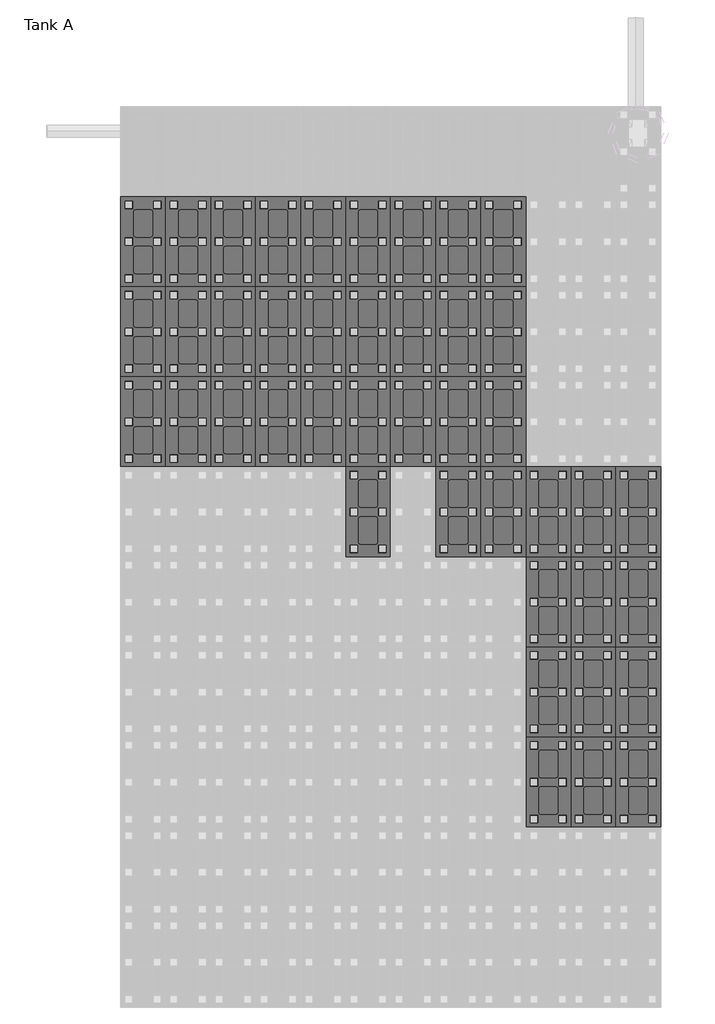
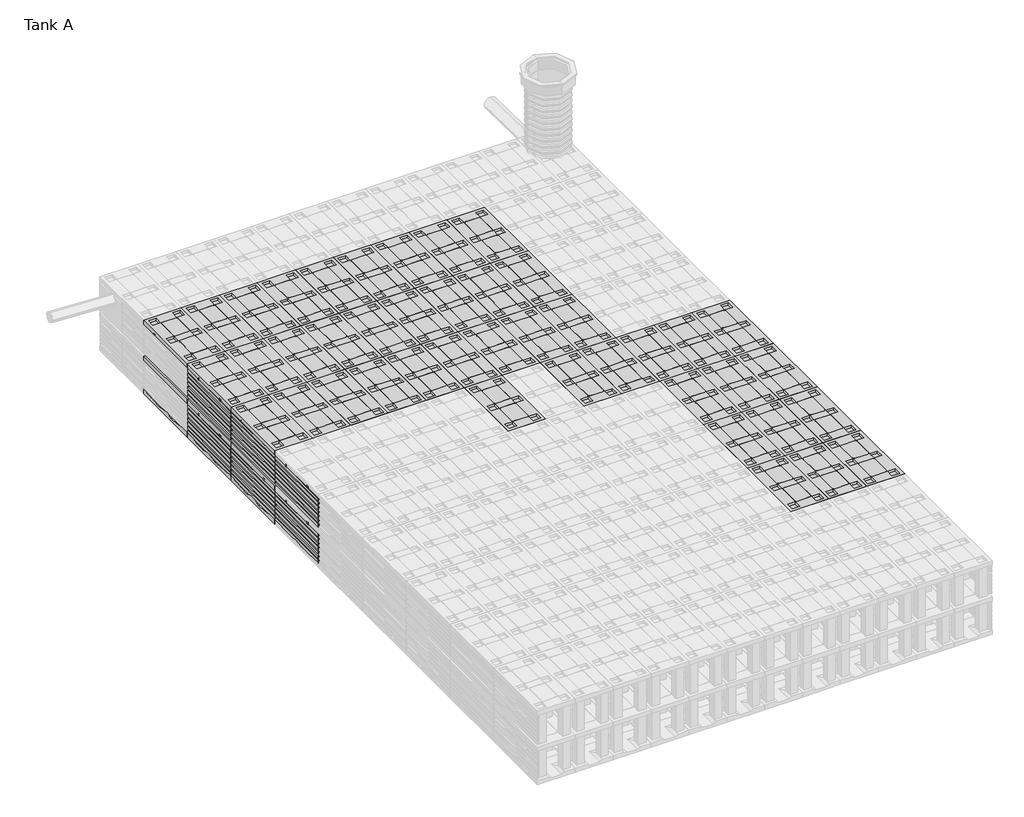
# One storey, part 3 of 6: 142 unitary equipment elements.
"""IFC4 building model written with IfcOpenShell, lengths in millimetres."""

from ifc_helpers import new_model, si_unit, origin, place, context, project, spatial, transform, mapped, element, save
from components import closed_bottom_plate_7d425a97, std_f31acf44, std_d7962c01

model = new_model("IFC4")

# Units and contexts
model_context = context("Model", 3, world=origin())
ifc_project = project(units=[si_unit("LENGTHUNIT", "METRE", prefix="MILLI")], contexts=[model_context])

# Site, building, storey
site = spatial("IfcSite", under=ifc_project)
building = spatial("IfcBuilding", under=site)
storey = spatial("IfcBuildingStorey", under=building, Name="Tank A", Elevation=-2300.0)

# Unitary equipment
placement = place(None, origin())
closed_bottom_plate_shape = closed_bottom_plate_7d425a97(model_context)
element("IfcUnitaryEquipment", 1, ObjectType="Z_ME_UN_Q-Bic_Plus_Bottom_Plate_Wavin_(nested) : Open bottom plate", at=placement, inside=storey, context=model_context, shape_type="MappedRepresentation", body=[
    mapped(closed_bottom_plate_shape, transform((9686.051096, 360.7779398, -2230.0), x_axis=(0.0, 1.0, 0.0), y_axis=(-1.0000000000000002, 0.0, 0.0), z_axis=(0.0, 0.0, 1.0000000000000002))),
])
element("IfcUnitaryEquipment", 2, ObjectType="Z_ME_UN_Q-Bic_Plus_Bottom_Plate_Wavin_(nested) : Open bottom plate", at=placement, inside=storey, context=model_context, shape_type="MappedRepresentation", body=[
    mapped(closed_bottom_plate_shape, transform((9686.051096, 1560.7779398, -2230.0), x_axis=(0.0, 1.0, 0.0), y_axis=(-1.0000000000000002, 0.0, 0.0), z_axis=(0.0, 0.0, 1.0000000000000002))),
])
element("IfcUnitaryEquipment", 3, ObjectType="Z_ME_UN_Q-Bic_Plus_Bottom_Plate_Wavin_(nested) : Open bottom plate", at=placement, inside=storey, context=model_context, shape_type="MappedRepresentation", body=[
    mapped(closed_bottom_plate_shape, transform((9686.051096, 2760.7779398, -2230.0), x_axis=(0.0, 1.0, 0.0), y_axis=(-1.0000000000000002, 0.0, 0.0), z_axis=(0.0, 0.0, 1.0000000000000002))),
])
element("IfcUnitaryEquipment", 4, ObjectType="Z_ME_UN_Q-Bic_Plus_Bottom_Plate_Wavin_(nested) : Open bottom plate", at=placement, inside=storey, context=model_context, shape_type="MappedRepresentation", body=[
    mapped(closed_bottom_plate_shape, transform((9686.051096, 3960.7779398, -2230.0), x_axis=(0.0, 1.0, 0.0), y_axis=(-1.0000000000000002, 0.0, 0.0), z_axis=(0.0, 0.0, 1.0000000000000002))),
])
element("IfcUnitaryEquipment", 5, ObjectType="Z_ME_UN_Q-Bic_Plus_Bottom_Plate_Wavin_(nested) : Open bottom plate", at=placement, inside=storey, context=model_context, shape_type="MappedRepresentation", body=[
    mapped(closed_bottom_plate_shape, transform((9086.051096, 360.7779398, -2230.0), x_axis=(0.0, 1.0, 0.0), y_axis=(-1.0000000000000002, 0.0, 0.0), z_axis=(0.0, 0.0, 1.0000000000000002))),
])
element("IfcUnitaryEquipment", 6, ObjectType="Z_ME_UN_Q-Bic_Plus_Bottom_Plate_Wavin_(nested) : Open bottom plate", at=placement, inside=storey, context=model_context, shape_type="MappedRepresentation", body=[
    mapped(closed_bottom_plate_shape, transform((9086.051096, 1560.7779398, -2230.0), x_axis=(0.0, 1.0, 0.0), y_axis=(-1.0000000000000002, 0.0, 0.0), z_axis=(0.0, 0.0, 1.0000000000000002))),
])
element("IfcUnitaryEquipment", 7, ObjectType="Z_ME_UN_Q-Bic_Plus_Bottom_Plate_Wavin_(nested) : Open bottom plate", at=placement, inside=storey, context=model_context, shape_type="MappedRepresentation", body=[
    mapped(closed_bottom_plate_shape, transform((9086.051096, 2760.7779398, -2230.0), x_axis=(0.0, 1.0, 0.0), y_axis=(-1.0000000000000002, 0.0, 0.0), z_axis=(0.0, 0.0, 1.0000000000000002))),
])
element("IfcUnitaryEquipment", 8, ObjectType="Z_ME_UN_Q-Bic_Plus_Bottom_Plate_Wavin_(nested) : Open bottom plate", at=placement, inside=storey, context=model_context, shape_type="MappedRepresentation", body=[
    mapped(closed_bottom_plate_shape, transform((9086.051096, 3960.7779398, -2230.0), x_axis=(0.0, 1.0, 0.0), y_axis=(-1.0000000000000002, 0.0, 0.0), z_axis=(0.0, 0.0, 1.0000000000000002))),
])
element("IfcUnitaryEquipment", 9, ObjectType="Z_ME_UN_Q-Bic_Plus_Bottom_Plate_Wavin_(nested) : Open bottom plate", at=placement, inside=storey, context=model_context, shape_type="MappedRepresentation", body=[
    mapped(closed_bottom_plate_shape, transform((8486.051096, 360.7779398, -2230.0), x_axis=(0.0, 1.0, 0.0), y_axis=(-1.0000000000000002, 0.0, 0.0), z_axis=(0.0, 0.0, 1.0000000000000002))),
])
element("IfcUnitaryEquipment", 10, ObjectType="Z_ME_UN_Q-Bic_Plus_Bottom_Plate_Wavin_(nested) : Open bottom plate", at=placement, inside=storey, context=model_context, shape_type="MappedRepresentation", body=[
    mapped(closed_bottom_plate_shape, transform((8486.051096, 1560.7779398, -2230.0), x_axis=(0.0, 1.0, 0.0), y_axis=(-1.0000000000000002, 0.0, 0.0), z_axis=(0.0, 0.0, 1.0000000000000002))),
])
element("IfcUnitaryEquipment", 11, ObjectType="Z_ME_UN_Q-Bic_Plus_Bottom_Plate_Wavin_(nested) : Open bottom plate", at=placement, inside=storey, context=model_context, shape_type="MappedRepresentation", body=[
    mapped(closed_bottom_plate_shape, transform((8486.051096, 2760.7779398, -2230.0), x_axis=(0.0, 1.0, 0.0), y_axis=(-1.0000000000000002, 0.0, 0.0), z_axis=(0.0, 0.0, 1.0000000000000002))),
])
element("IfcUnitaryEquipment", 12, ObjectType="Z_ME_UN_Q-Bic_Plus_Bottom_Plate_Wavin_(nested) : Open bottom plate", at=placement, inside=storey, context=model_context, shape_type="MappedRepresentation", body=[
    mapped(closed_bottom_plate_shape, transform((8486.051096, 3960.7779398, -2230.0), x_axis=(0.0, 1.0, 0.0), y_axis=(-1.0000000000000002, 0.0, 0.0), z_axis=(0.0, 0.0, 1.0000000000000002))),
])
element("IfcUnitaryEquipment", 13, ObjectType="Z_ME_UN_Q-Bic_Plus_Bottom_Plate_Wavin_(nested) : Open bottom plate", at=placement, inside=storey, context=model_context, shape_type="MappedRepresentation", body=[
    mapped(closed_bottom_plate_shape, transform((7886.051096, 3960.7779398, -2230.0), x_axis=(0.0, 1.0, 0.0), y_axis=(-1.0000000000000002, 0.0, 0.0), z_axis=(0.0, 0.0, 1.0000000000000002))),
])
element("IfcUnitaryEquipment", 14, ObjectType="Z_ME_UN_Q-Bic_Plus_Bottom_Plate_Wavin_(nested) : Open bottom plate", at=placement, inside=storey, context=model_context, shape_type="MappedRepresentation", body=[
    mapped(closed_bottom_plate_shape, transform((7886.051096, 5160.7779398, -2230.0), x_axis=(0.0, 1.0, 0.0), y_axis=(-1.0000000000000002, 0.0, 0.0), z_axis=(0.0, 0.0, 1.0000000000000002))),
])
element("IfcUnitaryEquipment", 15, ObjectType="Z_ME_UN_Q-Bic_Plus_Bottom_Plate_Wavin_(nested) : Open bottom plate", at=placement, inside=storey, context=model_context, shape_type="MappedRepresentation", body=[
    mapped(closed_bottom_plate_shape, transform((7886.051096, 6360.7779398, -2230.0), x_axis=(0.0, 1.0, 0.0), y_axis=(-1.0000000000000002, 0.0, 0.0), z_axis=(0.0, 0.0, 1.0000000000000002))),
])
element("IfcUnitaryEquipment", 16, ObjectType="Z_ME_UN_Q-Bic_Plus_Bottom_Plate_Wavin_(nested) : Open bottom plate", at=placement, inside=storey, context=model_context, shape_type="MappedRepresentation", body=[
    mapped(closed_bottom_plate_shape, transform((7886.051096, 7560.7779398, -2230.0), x_axis=(0.0, 1.0, 0.0), y_axis=(-1.0000000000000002, 0.0, 0.0), z_axis=(0.0, 0.0, 1.0000000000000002))),
])
element("IfcUnitaryEquipment", 17, ObjectType="Z_ME_UN_Q-Bic_Plus_Bottom_Plate_Wavin_(nested) : Open bottom plate", at=placement, inside=storey, context=model_context, shape_type="MappedRepresentation", body=[
    mapped(closed_bottom_plate_shape, transform((7286.051096, 3960.7779398, -2230.0), x_axis=(0.0, 1.0, 0.0), y_axis=(-1.0000000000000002, 0.0, 0.0), z_axis=(0.0, 0.0, 1.0000000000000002))),
])
element("IfcUnitaryEquipment", 18, ObjectType="Z_ME_UN_Q-Bic_Plus_Bottom_Plate_Wavin_(nested) : Open bottom plate", at=placement, inside=storey, context=model_context, shape_type="MappedRepresentation", body=[
    mapped(closed_bottom_plate_shape, transform((7286.051096, 5160.7779398, -2230.0), x_axis=(0.0, 1.0, 0.0), y_axis=(-1.0000000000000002, 0.0, 0.0), z_axis=(0.0, 0.0, 1.0000000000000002))),
])
element("IfcUnitaryEquipment", 19, ObjectType="Z_ME_UN_Q-Bic_Plus_Bottom_Plate_Wavin_(nested) : Open bottom plate", at=placement, inside=storey, context=model_context, shape_type="MappedRepresentation", body=[
    mapped(closed_bottom_plate_shape, transform((7286.051096, 6360.7779398, -2230.0), x_axis=(0.0, 1.0, 0.0), y_axis=(-1.0000000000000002, 0.0, 0.0), z_axis=(0.0, 0.0, 1.0000000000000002))),
])
element("IfcUnitaryEquipment", 20, ObjectType="Z_ME_UN_Q-Bic_Plus_Bottom_Plate_Wavin_(nested) : Open bottom plate", at=placement, inside=storey, context=model_context, shape_type="MappedRepresentation", body=[
    mapped(closed_bottom_plate_shape, transform((7286.051096, 7560.7779398, -2230.0), x_axis=(0.0, 1.0, 0.0), y_axis=(-1.0000000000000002, 0.0, 0.0), z_axis=(0.0, 0.0, 1.0000000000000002))),
])
element("IfcUnitaryEquipment", 21, ObjectType="Z_ME_UN_Q-Bic_Plus_Bottom_Plate_Wavin_(nested) : Open bottom plate", at=placement, inside=storey, context=model_context, shape_type="MappedRepresentation", body=[
    mapped(closed_bottom_plate_shape, transform((6686.051096, 3960.7779398, -2230.0), x_axis=(0.0, 1.0, 0.0), y_axis=(-1.0000000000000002, 0.0, 0.0), z_axis=(0.0, 0.0, 1.0000000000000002))),
])
element("IfcUnitaryEquipment", 22, ObjectType="Z_ME_UN_Q-Bic_Plus_Bottom_Plate_Wavin_(nested) : Open bottom plate", at=placement, inside=storey, context=model_context, shape_type="MappedRepresentation", body=[
    mapped(closed_bottom_plate_shape, transform((6686.051096, 5160.7779398, -2230.0), x_axis=(0.0, 1.0, 0.0), y_axis=(-1.0000000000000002, 0.0, 0.0), z_axis=(0.0, 0.0, 1.0000000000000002))),
])
element("IfcUnitaryEquipment", 23, ObjectType="Z_ME_UN_Q-Bic_Plus_Bottom_Plate_Wavin_(nested) : Open bottom plate", at=placement, inside=storey, context=model_context, shape_type="MappedRepresentation", body=[
    mapped(closed_bottom_plate_shape, transform((6686.051096, 6360.7779398, -2230.0), x_axis=(0.0, 1.0, 0.0), y_axis=(-1.0000000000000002, 0.0, 0.0), z_axis=(0.0, 0.0, 1.0000000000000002))),
])
element("IfcUnitaryEquipment", 24, ObjectType="Z_ME_UN_Q-Bic_Plus_Bottom_Plate_Wavin_(nested) : Open bottom plate", at=placement, inside=storey, context=model_context, shape_type="MappedRepresentation", body=[
    mapped(closed_bottom_plate_shape, transform((6686.051096, 7560.7779398, -2230.0), x_axis=(0.0, 1.0, 0.0), y_axis=(-1.0000000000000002, 0.0, 0.0), z_axis=(0.0, 0.0, 1.0000000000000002))),
])
element("IfcUnitaryEquipment", 25, ObjectType="Z_ME_UN_Q-Bic_Plus_Bottom_Plate_Wavin_(nested) : Open bottom plate", at=placement, inside=storey, context=model_context, shape_type="MappedRepresentation", body=[
    mapped(closed_bottom_plate_shape, transform((6086.051096, 3960.7779398, -2230.0), x_axis=(0.0, 1.0, 0.0), y_axis=(-1.0000000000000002, 0.0, 0.0), z_axis=(0.0, 0.0, 1.0000000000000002))),
])
element("IfcUnitaryEquipment", 26, ObjectType="Z_ME_UN_Q-Bic_Plus_Bottom_Plate_Wavin_(nested) : Open bottom plate", at=placement, inside=storey, context=model_context, shape_type="MappedRepresentation", body=[
    mapped(closed_bottom_plate_shape, transform((6086.051096, 5160.7779398, -2230.0), x_axis=(0.0, 1.0, 0.0), y_axis=(-1.0000000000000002, 0.0, 0.0), z_axis=(0.0, 0.0, 1.0000000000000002))),
])
element("IfcUnitaryEquipment", 27, ObjectType="Z_ME_UN_Q-Bic_Plus_Bottom_Plate_Wavin_(nested) : Open bottom plate", at=placement, inside=storey, context=model_context, shape_type="MappedRepresentation", body=[
    mapped(closed_bottom_plate_shape, transform((6086.051096, 6360.7779398, -2230.0), x_axis=(0.0, 1.0, 0.0), y_axis=(-1.0000000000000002, 0.0, 0.0), z_axis=(0.0, 0.0, 1.0000000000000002))),
])
element("IfcUnitaryEquipment", 28, ObjectType="Z_ME_UN_Q-Bic_Plus_Bottom_Plate_Wavin_(nested) : Open bottom plate", at=placement, inside=storey, context=model_context, shape_type="MappedRepresentation", body=[
    mapped(closed_bottom_plate_shape, transform((6086.051096, 7560.7779398, -2230.0), x_axis=(0.0, 1.0, 0.0), y_axis=(-1.0000000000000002, 0.0, 0.0), z_axis=(0.0, 0.0, 1.0000000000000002))),
])
element("IfcUnitaryEquipment", 29, ObjectType="Z_ME_UN_Q-Bic_Plus_Bottom_Plate_Wavin_(nested) : Open bottom plate", at=placement, inside=storey, context=model_context, shape_type="MappedRepresentation", body=[
    mapped(closed_bottom_plate_shape, transform((5486.051096, 5160.7779398, -2230.0), x_axis=(0.0, 1.0, 0.0), y_axis=(-1.0000000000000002, 0.0, 0.0), z_axis=(0.0, 0.0, 1.0000000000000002))),
])
element("IfcUnitaryEquipment", 30, ObjectType="Z_ME_UN_Q-Bic_Plus_Bottom_Plate_Wavin_(nested) : Open bottom plate", at=placement, inside=storey, context=model_context, shape_type="MappedRepresentation", body=[
    mapped(closed_bottom_plate_shape, transform((5486.051096, 6360.7779398, -2230.0), x_axis=(0.0, 1.0, 0.0), y_axis=(-1.0000000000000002, 0.0, 0.0), z_axis=(0.0, 0.0, 1.0000000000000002))),
])
element("IfcUnitaryEquipment", 31, ObjectType="Z_ME_UN_Q-Bic_Plus_Bottom_Plate_Wavin_(nested) : Open bottom plate", at=placement, inside=storey, context=model_context, shape_type="MappedRepresentation", body=[
    mapped(closed_bottom_plate_shape, transform((5486.051096, 7560.7779398, -2230.0), x_axis=(0.0, 1.0, 0.0), y_axis=(-1.0000000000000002, 0.0, 0.0), z_axis=(0.0, 0.0, 1.0000000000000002))),
])
element("IfcUnitaryEquipment", 32, ObjectType="Z_ME_UN_Q-Bic_Plus_Bottom_Plate_Wavin_(nested) : Open bottom plate", at=placement, inside=storey, context=model_context, shape_type="MappedRepresentation", body=[
    mapped(closed_bottom_plate_shape, transform((4886.051096, 5160.7779398, -2230.0), x_axis=(0.0, 1.0, 0.0), y_axis=(-1.0000000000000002, 0.0, 0.0), z_axis=(0.0, 0.0, 1.0000000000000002))),
])
element("IfcUnitaryEquipment", 33, ObjectType="Z_ME_UN_Q-Bic_Plus_Bottom_Plate_Wavin_(nested) : Open bottom plate", at=placement, inside=storey, context=model_context, shape_type="MappedRepresentation", body=[
    mapped(closed_bottom_plate_shape, transform((4886.051096, 6360.7779398, -2230.0), x_axis=(0.0, 1.0, 0.0), y_axis=(-1.0000000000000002, 0.0, 0.0), z_axis=(0.0, 0.0, 1.0000000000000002))),
])
element("IfcUnitaryEquipment", 34, ObjectType="Z_ME_UN_Q-Bic_Plus_Bottom_Plate_Wavin_(nested) : Open bottom plate", at=placement, inside=storey, context=model_context, shape_type="MappedRepresentation", body=[
    mapped(closed_bottom_plate_shape, transform((4886.051096, 7560.7779398, -2230.0), x_axis=(0.0, 1.0, 0.0), y_axis=(-1.0000000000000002, 0.0, 0.0), z_axis=(0.0, 0.0, 1.0000000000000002))),
])
element("IfcUnitaryEquipment", 35, ObjectType="Z_ME_UN_Q-Bic_Plus_Bottom_Plate_Wavin_(nested) : Open bottom plate", at=placement, inside=storey, context=model_context, shape_type="MappedRepresentation", body=[
    mapped(closed_bottom_plate_shape, transform((4286.051096, 5160.7779398, -2230.0), x_axis=(0.0, 1.0, 0.0), y_axis=(-1.0000000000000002, 0.0, 0.0), z_axis=(0.0, 0.0, 1.0000000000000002))),
])
element("IfcUnitaryEquipment", 36, ObjectType="Z_ME_UN_Q-Bic_Plus_Bottom_Plate_Wavin_(nested) : Open bottom plate", at=placement, inside=storey, context=model_context, shape_type="MappedRepresentation", body=[
    mapped(closed_bottom_plate_shape, transform((4286.051096, 6360.7779398, -2230.0), x_axis=(0.0, 1.0, 0.0), y_axis=(-1.0000000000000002, 0.0, 0.0), z_axis=(0.0, 0.0, 1.0000000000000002))),
])
element("IfcUnitaryEquipment", 37, ObjectType="Z_ME_UN_Q-Bic_Plus_Bottom_Plate_Wavin_(nested) : Open bottom plate", at=placement, inside=storey, context=model_context, shape_type="MappedRepresentation", body=[
    mapped(closed_bottom_plate_shape, transform((4286.051096, 7560.7779398, -2230.0), x_axis=(0.0, 1.0, 0.0), y_axis=(-1.0000000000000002, 0.0, 0.0), z_axis=(0.0, 0.0, 1.0000000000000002))),
])
element("IfcUnitaryEquipment", 38, ObjectType="Z_ME_UN_Q-Bic_Plus_Bottom_Plate_Wavin_(nested) : Open bottom plate", at=placement, inside=storey, context=model_context, shape_type="MappedRepresentation", body=[
    mapped(closed_bottom_plate_shape, transform((3686.051096, 5160.7779398, -2230.0), x_axis=(0.0, 1.0, 0.0), y_axis=(-1.0000000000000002, 0.0, 0.0), z_axis=(0.0, 0.0, 1.0000000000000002))),
])
element("IfcUnitaryEquipment", 39, ObjectType="Z_ME_UN_Q-Bic_Plus_Bottom_Plate_Wavin_(nested) : Open bottom plate", at=placement, inside=storey, context=model_context, shape_type="MappedRepresentation", body=[
    mapped(closed_bottom_plate_shape, transform((3686.051096, 6360.7779398, -2230.0), x_axis=(0.0, 1.0, 0.0), y_axis=(-1.0000000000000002, 0.0, 0.0), z_axis=(0.0, 0.0, 1.0000000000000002))),
])
element("IfcUnitaryEquipment", 40, ObjectType="Z_ME_UN_Q-Bic_Plus_Bottom_Plate_Wavin_(nested) : Open bottom plate", at=placement, inside=storey, context=model_context, shape_type="MappedRepresentation", body=[
    mapped(closed_bottom_plate_shape, transform((3686.051096, 7560.7779398, -2230.0), x_axis=(0.0, 1.0, 0.0), y_axis=(-1.0000000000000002, 0.0, 0.0), z_axis=(0.0, 0.0, 1.0000000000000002))),
])
element("IfcUnitaryEquipment", 41, ObjectType="Z_ME_UN_Q-Bic_Plus_Bottom_Plate_Wavin_(nested) : Open bottom plate", at=placement, inside=storey, context=model_context, shape_type="MappedRepresentation", body=[
    mapped(closed_bottom_plate_shape, transform((3086.051096, 5160.7779398, -2230.0), x_axis=(0.0, 1.0, 0.0), y_axis=(-1.0000000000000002, 0.0, 0.0), z_axis=(0.0, 0.0, 1.0000000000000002))),
])
element("IfcUnitaryEquipment", 42, ObjectType="Z_ME_UN_Q-Bic_Plus_Bottom_Plate_Wavin_(nested) : Open bottom plate", at=placement, inside=storey, context=model_context, shape_type="MappedRepresentation", body=[
    mapped(closed_bottom_plate_shape, transform((3086.051096, 6360.7779398, -2230.0), x_axis=(0.0, 1.0, 0.0), y_axis=(-1.0000000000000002, 0.0, 0.0), z_axis=(0.0, 0.0, 1.0000000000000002))),
])
element("IfcUnitaryEquipment", 43, ObjectType="Z_ME_UN_Q-Bic_Plus_Bottom_Plate_Wavin_(nested) : Open bottom plate", at=placement, inside=storey, context=model_context, shape_type="MappedRepresentation", body=[
    mapped(closed_bottom_plate_shape, transform((3086.051096, 7560.7779398, -2230.0), x_axis=(0.0, 1.0, 0.0), y_axis=(-1.0000000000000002, 0.0, 0.0), z_axis=(0.0, 0.0, 1.0000000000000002))),
])
std_shape = std_f31acf44(model_context)
element("IfcUnitaryEquipment", 44, ObjectType="Z_ME_UN_Q-Bic_Plus_Lateral_Side_Plate_Wavin_(nested) : std", at=placement, inside=storey, context=model_context, shape_type="MappedRepresentation", body=[
    mapped(std_shape, transform((9686.051096, 3960.7779398, -2330.0), x_axis=(0.0, 1.0000000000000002, 0.0), y_axis=(-1.0000000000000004, 0.0, 0.0), z_axis=(0.0, 0.0, 1.0000000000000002))),
])
element("IfcUnitaryEquipment", 45, ObjectType="Z_ME_UN_Q-Bic_Plus_Lateral_Side_Plate_Wavin_(nested) : std", at=placement, inside=storey, context=model_context, shape_type="MappedRepresentation", body=[
    mapped(std_shape, transform((9686.051096, 3960.7779398, -1730.0), x_axis=(0.0, 1.0000000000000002, 0.0), y_axis=(-1.0000000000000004, 0.0, 0.0), z_axis=(0.0, 0.0, 1.0000000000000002))),
])
element("IfcUnitaryEquipment", 46, ObjectType="Z_ME_UN_Q-Bic_Plus_Lateral_Side_Plate_Wavin_(nested) : std", at=placement, inside=storey, context=model_context, shape_type="MappedRepresentation", body=[
    mapped(std_shape, transform((9686.051096, 2760.7779398, -2330.0), x_axis=(0.0, 1.0000000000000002, 0.0), y_axis=(-1.0000000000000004, 0.0, 0.0), z_axis=(0.0, 0.0, 1.0000000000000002))),
])
element("IfcUnitaryEquipment", 47, ObjectType="Z_ME_UN_Q-Bic_Plus_Lateral_Side_Plate_Wavin_(nested) : std", at=placement, inside=storey, context=model_context, shape_type="MappedRepresentation", body=[
    mapped(std_shape, transform((9686.051096, 2760.7779398, -1730.0), x_axis=(0.0, 1.0000000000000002, 0.0), y_axis=(-1.0000000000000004, 0.0, 0.0), z_axis=(0.0, 0.0, 1.0000000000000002))),
])
element("IfcUnitaryEquipment", 48, ObjectType="Z_ME_UN_Q-Bic_Plus_Lateral_Side_Plate_Wavin_(nested) : std", at=placement, inside=storey, context=model_context, shape_type="MappedRepresentation", body=[
    mapped(std_shape, transform((9686.051096, 1560.7779398, -2330.0), x_axis=(0.0, 1.0000000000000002, 0.0), y_axis=(-1.0000000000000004, 0.0, 0.0), z_axis=(0.0, 0.0, 1.0000000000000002))),
])
element("IfcUnitaryEquipment", 49, ObjectType="Z_ME_UN_Q-Bic_Plus_Lateral_Side_Plate_Wavin_(nested) : std", at=placement, inside=storey, context=model_context, shape_type="MappedRepresentation", body=[
    mapped(std_shape, transform((9686.051096, 1560.7779398, -1730.0), x_axis=(0.0, 1.0000000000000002, 0.0), y_axis=(-1.0000000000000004, 0.0, 0.0), z_axis=(0.0, 0.0, 1.0000000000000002))),
])
element("IfcUnitaryEquipment", 50, ObjectType="Z_ME_UN_Q-Bic_Plus_Lateral_Side_Plate_Wavin_(nested) : std", at=placement, inside=storey, context=model_context, shape_type="MappedRepresentation", body=[
    mapped(std_shape, transform((9686.051096, 360.7779398, -2330.0), x_axis=(0.0, 1.0000000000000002, 0.0), y_axis=(-1.0000000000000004, 0.0, 0.0), z_axis=(0.0, 0.0, 1.0000000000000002))),
])
element("IfcUnitaryEquipment", 51, ObjectType="Z_ME_UN_Q-Bic_Plus_Lateral_Side_Plate_Wavin_(nested) : std", at=placement, inside=storey, context=model_context, shape_type="MappedRepresentation", body=[
    mapped(std_shape, transform((9686.051096, 360.7779398, -1730.0), x_axis=(0.0, 1.0000000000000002, 0.0), y_axis=(-1.0000000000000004, 0.0, 0.0), z_axis=(0.0, 0.0, 1.0000000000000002))),
])
element("IfcUnitaryEquipment", 52, ObjectType="Z_ME_UN_Q-Bic_Plus_Lateral_Side_Plate_Wavin_(nested) : std", at=placement, inside=storey, context=model_context, shape_type="MappedRepresentation", body=[
    mapped(std_shape, transform((2486.051096, 5160.7779398, -2330.0), x_axis=(0.0, -1.0000000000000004, 0.0), y_axis=(1.0000000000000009, 0.0, 0.0), z_axis=(0.0, 0.0, 1.0000000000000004))),
])
element("IfcUnitaryEquipment", 53, ObjectType="Z_ME_UN_Q-Bic_Plus_Lateral_Side_Plate_Wavin_(nested) : std", at=placement, inside=storey, context=model_context, shape_type="MappedRepresentation", body=[
    mapped(std_shape, transform((2486.051096, 5160.7779398, -1730.0), x_axis=(0.0, -1.0000000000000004, 0.0), y_axis=(1.0000000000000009, 0.0, 0.0), z_axis=(0.0, 0.0, 1.0000000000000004))),
])
element("IfcUnitaryEquipment", 54, ObjectType="Z_ME_UN_Q-Bic_Plus_Lateral_Side_Plate_Wavin_(nested) : std", at=placement, inside=storey, context=model_context, shape_type="MappedRepresentation", body=[
    mapped(std_shape, transform((2486.051096, 6360.7779398, -2330.0), x_axis=(0.0, -1.0000000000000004, 0.0), y_axis=(1.0000000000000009, 0.0, 0.0), z_axis=(0.0, 0.0, 1.0000000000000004))),
])
element("IfcUnitaryEquipment", 55, ObjectType="Z_ME_UN_Q-Bic_Plus_Lateral_Side_Plate_Wavin_(nested) : std", at=placement, inside=storey, context=model_context, shape_type="MappedRepresentation", body=[
    mapped(std_shape, transform((2486.051096, 6360.7779398, -1730.0), x_axis=(0.0, -1.0000000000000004, 0.0), y_axis=(1.0000000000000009, 0.0, 0.0), z_axis=(0.0, 0.0, 1.0000000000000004))),
])
element("IfcUnitaryEquipment", 56, ObjectType="Z_ME_UN_Q-Bic_Plus_Lateral_Side_Plate_Wavin_(nested) : std", at=placement, inside=storey, context=model_context, shape_type="MappedRepresentation", body=[
    mapped(std_shape, transform((2486.051096, 7560.7779398, -2330.0), x_axis=(0.0, -1.0000000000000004, 0.0), y_axis=(1.0000000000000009, 0.0, 0.0), z_axis=(0.0, 0.0, 1.0000000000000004))),
])
element("IfcUnitaryEquipment", 57, ObjectType="Z_ME_UN_Q-Bic_Plus_Lateral_Side_Plate_Wavin_(nested) : std", at=placement, inside=storey, context=model_context, shape_type="MappedRepresentation", body=[
    mapped(std_shape, transform((2486.051096, 7560.7779398, -1730.0), x_axis=(0.0, -1.0000000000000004, 0.0), y_axis=(1.0000000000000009, 0.0, 0.0), z_axis=(0.0, 0.0, 1.0000000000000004))),
])
std_2_shape = std_d7962c01(model_context)
element("IfcUnitaryEquipment", 58, ObjectType="Z_ME_UN_Q-Bic_Plus_Infiltration_Unit_Wavin_(nested) : std", at=placement, inside=storey, context=model_context, shape_type="MappedRepresentation", body=[
    mapped(std_2_shape, transform((9686.051096, 360.7779398, -1670.0), x_axis=(0.0, 1.0, 0.0), y_axis=(-1.0000000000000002, 0.0, 0.0), z_axis=(0.0, 0.0, 1.0000000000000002))),
])
element("IfcUnitaryEquipment", 59, ObjectType="Z_ME_UN_Q-Bic_Plus_Infiltration_Unit_Wavin_(nested) : std", at=placement, inside=storey, context=model_context, shape_type="MappedRepresentation", body=[
    mapped(std_2_shape, transform((9686.051096, 360.7779398, -2270.0), x_axis=(0.0, 1.0, 0.0), y_axis=(-1.0000000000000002, 0.0, 0.0), z_axis=(0.0, 0.0, 1.0000000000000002))),
])
element("IfcUnitaryEquipment", 60, ObjectType="Z_ME_UN_Q-Bic_Plus_Infiltration_Unit_Wavin_(nested) : std", at=placement, inside=storey, context=model_context, shape_type="MappedRepresentation", body=[
    mapped(std_2_shape, transform((9686.051096, 1560.7779398, -1670.0), x_axis=(0.0, 1.0, 0.0), y_axis=(-1.0000000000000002, 0.0, 0.0), z_axis=(0.0, 0.0, 1.0000000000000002))),
])
element("IfcUnitaryEquipment", 61, ObjectType="Z_ME_UN_Q-Bic_Plus_Infiltration_Unit_Wavin_(nested) : std", at=placement, inside=storey, context=model_context, shape_type="MappedRepresentation", body=[
    mapped(std_2_shape, transform((9686.051096, 1560.7779398, -2270.0), x_axis=(0.0, 1.0, 0.0), y_axis=(-1.0000000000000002, 0.0, 0.0), z_axis=(0.0, 0.0, 1.0000000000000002))),
])
element("IfcUnitaryEquipment", 62, ObjectType="Z_ME_UN_Q-Bic_Plus_Infiltration_Unit_Wavin_(nested) : std", at=placement, inside=storey, context=model_context, shape_type="MappedRepresentation", body=[
    mapped(std_2_shape, transform((9686.051096, 2760.7779398, -1670.0), x_axis=(0.0, 1.0, 0.0), y_axis=(-1.0000000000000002, 0.0, 0.0), z_axis=(0.0, 0.0, 1.0000000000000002))),
])
element("IfcUnitaryEquipment", 63, ObjectType="Z_ME_UN_Q-Bic_Plus_Infiltration_Unit_Wavin_(nested) : std", at=placement, inside=storey, context=model_context, shape_type="MappedRepresentation", body=[
    mapped(std_2_shape, transform((9686.051096, 2760.7779398, -2270.0), x_axis=(0.0, 1.0, 0.0), y_axis=(-1.0000000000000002, 0.0, 0.0), z_axis=(0.0, 0.0, 1.0000000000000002))),
])
element("IfcUnitaryEquipment", 64, ObjectType="Z_ME_UN_Q-Bic_Plus_Infiltration_Unit_Wavin_(nested) : std", at=placement, inside=storey, context=model_context, shape_type="MappedRepresentation", body=[
    mapped(std_2_shape, transform((9686.051096, 3960.7779398, -1670.0), x_axis=(0.0, 1.0, 0.0), y_axis=(-1.0000000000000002, 0.0, 0.0), z_axis=(0.0, 0.0, 1.0000000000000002))),
])
element("IfcUnitaryEquipment", 65, ObjectType="Z_ME_UN_Q-Bic_Plus_Infiltration_Unit_Wavin_(nested) : std", at=placement, inside=storey, context=model_context, shape_type="MappedRepresentation", body=[
    mapped(std_2_shape, transform((9686.051096, 3960.7779398, -2270.0), x_axis=(0.0, 1.0, 0.0), y_axis=(-1.0000000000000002, 0.0, 0.0), z_axis=(0.0, 0.0, 1.0000000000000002))),
])
element("IfcUnitaryEquipment", 66, ObjectType="Z_ME_UN_Q-Bic_Plus_Infiltration_Unit_Wavin_(nested) : std", at=placement, inside=storey, context=model_context, shape_type="MappedRepresentation", body=[
    mapped(std_2_shape, transform((9086.051096, 360.7779398, -1670.0), x_axis=(0.0, 1.0, 0.0), y_axis=(-1.0000000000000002, 0.0, 0.0), z_axis=(0.0, 0.0, 1.0000000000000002))),
])
element("IfcUnitaryEquipment", 67, ObjectType="Z_ME_UN_Q-Bic_Plus_Infiltration_Unit_Wavin_(nested) : std", at=placement, inside=storey, context=model_context, shape_type="MappedRepresentation", body=[
    mapped(std_2_shape, transform((9086.051096, 360.7779398, -2270.0), x_axis=(0.0, 1.0, 0.0), y_axis=(-1.0000000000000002, 0.0, 0.0), z_axis=(0.0, 0.0, 1.0000000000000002))),
])
element("IfcUnitaryEquipment", 68, ObjectType="Z_ME_UN_Q-Bic_Plus_Infiltration_Unit_Wavin_(nested) : std", at=placement, inside=storey, context=model_context, shape_type="MappedRepresentation", body=[
    mapped(std_2_shape, transform((9086.051096, 1560.7779398, -1670.0), x_axis=(0.0, 1.0, 0.0), y_axis=(-1.0000000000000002, 0.0, 0.0), z_axis=(0.0, 0.0, 1.0000000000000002))),
])
element("IfcUnitaryEquipment", 69, ObjectType="Z_ME_UN_Q-Bic_Plus_Infiltration_Unit_Wavin_(nested) : std", at=placement, inside=storey, context=model_context, shape_type="MappedRepresentation", body=[
    mapped(std_2_shape, transform((9086.051096, 1560.7779398, -2270.0), x_axis=(0.0, 1.0, 0.0), y_axis=(-1.0000000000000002, 0.0, 0.0), z_axis=(0.0, 0.0, 1.0000000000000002))),
])
element("IfcUnitaryEquipment", 70, ObjectType="Z_ME_UN_Q-Bic_Plus_Infiltration_Unit_Wavin_(nested) : std", at=placement, inside=storey, context=model_context, shape_type="MappedRepresentation", body=[
    mapped(std_2_shape, transform((9086.051096, 2760.7779398, -1670.0), x_axis=(0.0, 1.0, 0.0), y_axis=(-1.0000000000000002, 0.0, 0.0), z_axis=(0.0, 0.0, 1.0000000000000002))),
])
element("IfcUnitaryEquipment", 71, ObjectType="Z_ME_UN_Q-Bic_Plus_Infiltration_Unit_Wavin_(nested) : std", at=placement, inside=storey, context=model_context, shape_type="MappedRepresentation", body=[
    mapped(std_2_shape, transform((9086.051096, 2760.7779398, -2270.0), x_axis=(0.0, 1.0, 0.0), y_axis=(-1.0000000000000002, 0.0, 0.0), z_axis=(0.0, 0.0, 1.0000000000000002))),
])
element("IfcUnitaryEquipment", 72, ObjectType="Z_ME_UN_Q-Bic_Plus_Infiltration_Unit_Wavin_(nested) : std", at=placement, inside=storey, context=model_context, shape_type="MappedRepresentation", body=[
    mapped(std_2_shape, transform((9086.051096, 3960.7779398, -1670.0), x_axis=(0.0, 1.0, 0.0), y_axis=(-1.0000000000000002, 0.0, 0.0), z_axis=(0.0, 0.0, 1.0000000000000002))),
])
element("IfcUnitaryEquipment", 73, ObjectType="Z_ME_UN_Q-Bic_Plus_Infiltration_Unit_Wavin_(nested) : std", at=placement, inside=storey, context=model_context, shape_type="MappedRepresentation", body=[
    mapped(std_2_shape, transform((9086.051096, 3960.7779398, -2270.0), x_axis=(0.0, 1.0, 0.0), y_axis=(-1.0000000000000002, 0.0, 0.0), z_axis=(0.0, 0.0, 1.0000000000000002))),
])
element("IfcUnitaryEquipment", 74, ObjectType="Z_ME_UN_Q-Bic_Plus_Infiltration_Unit_Wavin_(nested) : std", at=placement, inside=storey, context=model_context, shape_type="MappedRepresentation", body=[
    mapped(std_2_shape, transform((8486.051096, 360.7779398, -1670.0), x_axis=(0.0, 1.0, 0.0), y_axis=(-1.0000000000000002, 0.0, 0.0), z_axis=(0.0, 0.0, 1.0000000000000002))),
])
element("IfcUnitaryEquipment", 75, ObjectType="Z_ME_UN_Q-Bic_Plus_Infiltration_Unit_Wavin_(nested) : std", at=placement, inside=storey, context=model_context, shape_type="MappedRepresentation", body=[
    mapped(std_2_shape, transform((8486.051096, 360.7779398, -2270.0), x_axis=(0.0, 1.0, 0.0), y_axis=(-1.0000000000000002, 0.0, 0.0), z_axis=(0.0, 0.0, 1.0000000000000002))),
])
element("IfcUnitaryEquipment", 76, ObjectType="Z_ME_UN_Q-Bic_Plus_Infiltration_Unit_Wavin_(nested) : std", at=placement, inside=storey, context=model_context, shape_type="MappedRepresentation", body=[
    mapped(std_2_shape, transform((8486.051096, 1560.7779398, -1670.0), x_axis=(0.0, 1.0, 0.0), y_axis=(-1.0000000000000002, 0.0, 0.0), z_axis=(0.0, 0.0, 1.0000000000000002))),
])
element("IfcUnitaryEquipment", 77, ObjectType="Z_ME_UN_Q-Bic_Plus_Infiltration_Unit_Wavin_(nested) : std", at=placement, inside=storey, context=model_context, shape_type="MappedRepresentation", body=[
    mapped(std_2_shape, transform((8486.051096, 1560.7779398, -2270.0), x_axis=(0.0, 1.0, 0.0), y_axis=(-1.0000000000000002, 0.0, 0.0), z_axis=(0.0, 0.0, 1.0000000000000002))),
])
element("IfcUnitaryEquipment", 78, ObjectType="Z_ME_UN_Q-Bic_Plus_Infiltration_Unit_Wavin_(nested) : std", at=placement, inside=storey, context=model_context, shape_type="MappedRepresentation", body=[
    mapped(std_2_shape, transform((8486.051096, 2760.7779398, -1670.0), x_axis=(0.0, 1.0, 0.0), y_axis=(-1.0000000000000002, 0.0, 0.0), z_axis=(0.0, 0.0, 1.0000000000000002))),
])
element("IfcUnitaryEquipment", 79, ObjectType="Z_ME_UN_Q-Bic_Plus_Infiltration_Unit_Wavin_(nested) : std", at=placement, inside=storey, context=model_context, shape_type="MappedRepresentation", body=[
    mapped(std_2_shape, transform((8486.051096, 2760.7779398, -2270.0), x_axis=(0.0, 1.0, 0.0), y_axis=(-1.0000000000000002, 0.0, 0.0), z_axis=(0.0, 0.0, 1.0000000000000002))),
])
element("IfcUnitaryEquipment", 80, ObjectType="Z_ME_UN_Q-Bic_Plus_Infiltration_Unit_Wavin_(nested) : std", at=placement, inside=storey, context=model_context, shape_type="MappedRepresentation", body=[
    mapped(std_2_shape, transform((8486.051096, 3960.7779398, -1670.0), x_axis=(0.0, 1.0, 0.0), y_axis=(-1.0000000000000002, 0.0, 0.0), z_axis=(0.0, 0.0, 1.0000000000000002))),
])
element("IfcUnitaryEquipment", 81, ObjectType="Z_ME_UN_Q-Bic_Plus_Infiltration_Unit_Wavin_(nested) : std", at=placement, inside=storey, context=model_context, shape_type="MappedRepresentation", body=[
    mapped(std_2_shape, transform((8486.051096, 3960.7779398, -2270.0), x_axis=(0.0, 1.0, 0.0), y_axis=(-1.0000000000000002, 0.0, 0.0), z_axis=(0.0, 0.0, 1.0000000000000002))),
])
element("IfcUnitaryEquipment", 82, ObjectType="Z_ME_UN_Q-Bic_Plus_Infiltration_Unit_Wavin_(nested) : std", at=placement, inside=storey, context=model_context, shape_type="MappedRepresentation", body=[
    mapped(std_2_shape, transform((7886.051096, 3960.7779398, -1670.0), x_axis=(0.0, 1.0, 0.0), y_axis=(-1.0000000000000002, 0.0, 0.0), z_axis=(0.0, 0.0, 1.0000000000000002))),
])
element("IfcUnitaryEquipment", 83, ObjectType="Z_ME_UN_Q-Bic_Plus_Infiltration_Unit_Wavin_(nested) : std", at=placement, inside=storey, context=model_context, shape_type="MappedRepresentation", body=[
    mapped(std_2_shape, transform((7886.051096, 3960.7779398, -2270.0), x_axis=(0.0, 1.0, 0.0), y_axis=(-1.0000000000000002, 0.0, 0.0), z_axis=(0.0, 0.0, 1.0000000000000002))),
])
element("IfcUnitaryEquipment", 84, ObjectType="Z_ME_UN_Q-Bic_Plus_Infiltration_Unit_Wavin_(nested) : std", at=placement, inside=storey, context=model_context, shape_type="MappedRepresentation", body=[
    mapped(std_2_shape, transform((7886.051096, 5160.7779398, -1670.0), x_axis=(0.0, 1.0, 0.0), y_axis=(-1.0000000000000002, 0.0, 0.0), z_axis=(0.0, 0.0, 1.0000000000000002))),
])
element("IfcUnitaryEquipment", 85, ObjectType="Z_ME_UN_Q-Bic_Plus_Infiltration_Unit_Wavin_(nested) : std", at=placement, inside=storey, context=model_context, shape_type="MappedRepresentation", body=[
    mapped(std_2_shape, transform((7886.051096, 5160.7779398, -2270.0), x_axis=(0.0, 1.0, 0.0), y_axis=(-1.0000000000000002, 0.0, 0.0), z_axis=(0.0, 0.0, 1.0000000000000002))),
])
element("IfcUnitaryEquipment", 86, ObjectType="Z_ME_UN_Q-Bic_Plus_Infiltration_Unit_Wavin_(nested) : std", at=placement, inside=storey, context=model_context, shape_type="MappedRepresentation", body=[
    mapped(std_2_shape, transform((7886.051096, 6360.7779398, -1670.0), x_axis=(0.0, 1.0, 0.0), y_axis=(-1.0000000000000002, 0.0, 0.0), z_axis=(0.0, 0.0, 1.0000000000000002))),
])
element("IfcUnitaryEquipment", 87, ObjectType="Z_ME_UN_Q-Bic_Plus_Infiltration_Unit_Wavin_(nested) : std", at=placement, inside=storey, context=model_context, shape_type="MappedRepresentation", body=[
    mapped(std_2_shape, transform((7886.051096, 6360.7779398, -2270.0), x_axis=(0.0, 1.0, 0.0), y_axis=(-1.0000000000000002, 0.0, 0.0), z_axis=(0.0, 0.0, 1.0000000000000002))),
])
element("IfcUnitaryEquipment", 88, ObjectType="Z_ME_UN_Q-Bic_Plus_Infiltration_Unit_Wavin_(nested) : std", at=placement, inside=storey, context=model_context, shape_type="MappedRepresentation", body=[
    mapped(std_2_shape, transform((7886.051096, 7560.7779398, -1670.0), x_axis=(0.0, 1.0, 0.0), y_axis=(-1.0000000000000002, 0.0, 0.0), z_axis=(0.0, 0.0, 1.0000000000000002))),
])
element("IfcUnitaryEquipment", 89, ObjectType="Z_ME_UN_Q-Bic_Plus_Infiltration_Unit_Wavin_(nested) : std", at=placement, inside=storey, context=model_context, shape_type="MappedRepresentation", body=[
    mapped(std_2_shape, transform((7886.051096, 7560.7779398, -2270.0), x_axis=(0.0, 1.0, 0.0), y_axis=(-1.0000000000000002, 0.0, 0.0), z_axis=(0.0, 0.0, 1.0000000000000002))),
])
element("IfcUnitaryEquipment", 90, ObjectType="Z_ME_UN_Q-Bic_Plus_Infiltration_Unit_Wavin_(nested) : std", at=placement, inside=storey, context=model_context, shape_type="MappedRepresentation", body=[
    mapped(std_2_shape, transform((7286.051096, 3960.7779398, -1670.0), x_axis=(0.0, 1.0, 0.0), y_axis=(-1.0000000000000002, 0.0, 0.0), z_axis=(0.0, 0.0, 1.0000000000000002))),
])
element("IfcUnitaryEquipment", 91, ObjectType="Z_ME_UN_Q-Bic_Plus_Infiltration_Unit_Wavin_(nested) : std", at=placement, inside=storey, context=model_context, shape_type="MappedRepresentation", body=[
    mapped(std_2_shape, transform((7286.051096, 3960.7779398, -2270.0), x_axis=(0.0, 1.0, 0.0), y_axis=(-1.0000000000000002, 0.0, 0.0), z_axis=(0.0, 0.0, 1.0000000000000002))),
])
element("IfcUnitaryEquipment", 92, ObjectType="Z_ME_UN_Q-Bic_Plus_Infiltration_Unit_Wavin_(nested) : std", at=placement, inside=storey, context=model_context, shape_type="MappedRepresentation", body=[
    mapped(std_2_shape, transform((7286.051096, 5160.7779398, -1670.0), x_axis=(0.0, 1.0, 0.0), y_axis=(-1.0000000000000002, 0.0, 0.0), z_axis=(0.0, 0.0, 1.0000000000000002))),
])
element("IfcUnitaryEquipment", 93, ObjectType="Z_ME_UN_Q-Bic_Plus_Infiltration_Unit_Wavin_(nested) : std", at=placement, inside=storey, context=model_context, shape_type="MappedRepresentation", body=[
    mapped(std_2_shape, transform((7286.051096, 5160.7779398, -2270.0), x_axis=(0.0, 1.0, 0.0), y_axis=(-1.0000000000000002, 0.0, 0.0), z_axis=(0.0, 0.0, 1.0000000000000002))),
])
element("IfcUnitaryEquipment", 94, ObjectType="Z_ME_UN_Q-Bic_Plus_Infiltration_Unit_Wavin_(nested) : std", at=placement, inside=storey, context=model_context, shape_type="MappedRepresentation", body=[
    mapped(std_2_shape, transform((7286.051096, 6360.7779398, -1670.0), x_axis=(0.0, 1.0, 0.0), y_axis=(-1.0000000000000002, 0.0, 0.0), z_axis=(0.0, 0.0, 1.0000000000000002))),
])
element("IfcUnitaryEquipment", 95, ObjectType="Z_ME_UN_Q-Bic_Plus_Infiltration_Unit_Wavin_(nested) : std", at=placement, inside=storey, context=model_context, shape_type="MappedRepresentation", body=[
    mapped(std_2_shape, transform((7286.051096, 6360.7779398, -2270.0), x_axis=(0.0, 1.0, 0.0), y_axis=(-1.0000000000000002, 0.0, 0.0), z_axis=(0.0, 0.0, 1.0000000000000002))),
])
element("IfcUnitaryEquipment", 96, ObjectType="Z_ME_UN_Q-Bic_Plus_Infiltration_Unit_Wavin_(nested) : std", at=placement, inside=storey, context=model_context, shape_type="MappedRepresentation", body=[
    mapped(std_2_shape, transform((7286.051096, 7560.7779398, -1670.0), x_axis=(0.0, 1.0, 0.0), y_axis=(-1.0000000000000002, 0.0, 0.0), z_axis=(0.0, 0.0, 1.0000000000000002))),
])
element("IfcUnitaryEquipment", 97, ObjectType="Z_ME_UN_Q-Bic_Plus_Infiltration_Unit_Wavin_(nested) : std", at=placement, inside=storey, context=model_context, shape_type="MappedRepresentation", body=[
    mapped(std_2_shape, transform((7286.051096, 7560.7779398, -2270.0), x_axis=(0.0, 1.0, 0.0), y_axis=(-1.0000000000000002, 0.0, 0.0), z_axis=(0.0, 0.0, 1.0000000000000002))),
])
element("IfcUnitaryEquipment", 98, ObjectType="Z_ME_UN_Q-Bic_Plus_Infiltration_Unit_Wavin_(nested) : std", at=placement, inside=storey, context=model_context, shape_type="MappedRepresentation", body=[
    mapped(std_2_shape, transform((6686.051096, 3960.7779398, -2270.0), x_axis=(0.0, 1.0, 0.0), y_axis=(-1.0000000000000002, 0.0, 0.0), z_axis=(0.0, 0.0, 1.0000000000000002))),
])
element("IfcUnitaryEquipment", 99, ObjectType="Z_ME_UN_Q-Bic_Plus_Infiltration_Unit_Wavin_(nested) : std", at=placement, inside=storey, context=model_context, shape_type="MappedRepresentation", body=[
    mapped(std_2_shape, transform((6686.051096, 5160.7779398, -1670.0), x_axis=(0.0, 1.0, 0.0), y_axis=(-1.0000000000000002, 0.0, 0.0), z_axis=(0.0, 0.0, 1.0000000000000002))),
])
element("IfcUnitaryEquipment", 100, ObjectType="Z_ME_UN_Q-Bic_Plus_Infiltration_Unit_Wavin_(nested) : std", at=placement, inside=storey, context=model_context, shape_type="MappedRepresentation", body=[
    mapped(std_2_shape, transform((6686.051096, 5160.7779398, -2270.0), x_axis=(0.0, 1.0, 0.0), y_axis=(-1.0000000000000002, 0.0, 0.0), z_axis=(0.0, 0.0, 1.0000000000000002))),
])
element("IfcUnitaryEquipment", 101, ObjectType="Z_ME_UN_Q-Bic_Plus_Infiltration_Unit_Wavin_(nested) : std", at=placement, inside=storey, context=model_context, shape_type="MappedRepresentation", body=[
    mapped(std_2_shape, transform((6686.051096, 6360.7779398, -1670.0), x_axis=(0.0, 1.0, 0.0), y_axis=(-1.0000000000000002, 0.0, 0.0), z_axis=(0.0, 0.0, 1.0000000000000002))),
])
element("IfcUnitaryEquipment", 102, ObjectType="Z_ME_UN_Q-Bic_Plus_Infiltration_Unit_Wavin_(nested) : std", at=placement, inside=storey, context=model_context, shape_type="MappedRepresentation", body=[
    mapped(std_2_shape, transform((6686.051096, 6360.7779398, -2270.0), x_axis=(0.0, 1.0, 0.0), y_axis=(-1.0000000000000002, 0.0, 0.0), z_axis=(0.0, 0.0, 1.0000000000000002))),
])
element("IfcUnitaryEquipment", 103, ObjectType="Z_ME_UN_Q-Bic_Plus_Infiltration_Unit_Wavin_(nested) : std", at=placement, inside=storey, context=model_context, shape_type="MappedRepresentation", body=[
    mapped(std_2_shape, transform((6686.051096, 7560.7779398, -1670.0), x_axis=(0.0, 1.0, 0.0), y_axis=(-1.0000000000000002, 0.0, 0.0), z_axis=(0.0, 0.0, 1.0000000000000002))),
])
element("IfcUnitaryEquipment", 104, ObjectType="Z_ME_UN_Q-Bic_Plus_Infiltration_Unit_Wavin_(nested) : std", at=placement, inside=storey, context=model_context, shape_type="MappedRepresentation", body=[
    mapped(std_2_shape, transform((6686.051096, 7560.7779398, -2270.0), x_axis=(0.0, 1.0, 0.0), y_axis=(-1.0000000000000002, 0.0, 0.0), z_axis=(0.0, 0.0, 1.0000000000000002))),
])
element("IfcUnitaryEquipment", 105, ObjectType="Z_ME_UN_Q-Bic_Plus_Infiltration_Unit_Wavin_(nested) : std", at=placement, inside=storey, context=model_context, shape_type="MappedRepresentation", body=[
    mapped(std_2_shape, transform((6086.051096, 3960.7779398, -1670.0), x_axis=(0.0, 1.0, 0.0), y_axis=(-1.0000000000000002, 0.0, 0.0), z_axis=(0.0, 0.0, 1.0000000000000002))),
])
element("IfcUnitaryEquipment", 106, ObjectType="Z_ME_UN_Q-Bic_Plus_Infiltration_Unit_Wavin_(nested) : std", at=placement, inside=storey, context=model_context, shape_type="MappedRepresentation", body=[
    mapped(std_2_shape, transform((6086.051096, 3960.7779398, -2270.0), x_axis=(0.0, 1.0, 0.0), y_axis=(-1.0000000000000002, 0.0, 0.0), z_axis=(0.0, 0.0, 1.0000000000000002))),
])
element("IfcUnitaryEquipment", 107, ObjectType="Z_ME_UN_Q-Bic_Plus_Infiltration_Unit_Wavin_(nested) : std", at=placement, inside=storey, context=model_context, shape_type="MappedRepresentation", body=[
    mapped(std_2_shape, transform((6086.051096, 5160.7779398, -1670.0), x_axis=(0.0, 1.0, 0.0), y_axis=(-1.0000000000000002, 0.0, 0.0), z_axis=(0.0, 0.0, 1.0000000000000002))),
])
element("IfcUnitaryEquipment", 108, ObjectType="Z_ME_UN_Q-Bic_Plus_Infiltration_Unit_Wavin_(nested) : std", at=placement, inside=storey, context=model_context, shape_type="MappedRepresentation", body=[
    mapped(std_2_shape, transform((6086.051096, 5160.7779398, -2270.0), x_axis=(0.0, 1.0, 0.0), y_axis=(-1.0000000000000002, 0.0, 0.0), z_axis=(0.0, 0.0, 1.0000000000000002))),
])
element("IfcUnitaryEquipment", 109, ObjectType="Z_ME_UN_Q-Bic_Plus_Infiltration_Unit_Wavin_(nested) : std", at=placement, inside=storey, context=model_context, shape_type="MappedRepresentation", body=[
    mapped(std_2_shape, transform((6086.051096, 6360.7779398, -1670.0), x_axis=(0.0, 1.0, 0.0), y_axis=(-1.0000000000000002, 0.0, 0.0), z_axis=(0.0, 0.0, 1.0000000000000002))),
])
element("IfcUnitaryEquipment", 110, ObjectType="Z_ME_UN_Q-Bic_Plus_Infiltration_Unit_Wavin_(nested) : std", at=placement, inside=storey, context=model_context, shape_type="MappedRepresentation", body=[
    mapped(std_2_shape, transform((6086.051096, 6360.7779398, -2270.0), x_axis=(0.0, 1.0, 0.0), y_axis=(-1.0000000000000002, 0.0, 0.0), z_axis=(0.0, 0.0, 1.0000000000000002))),
])
element("IfcUnitaryEquipment", 111, ObjectType="Z_ME_UN_Q-Bic_Plus_Infiltration_Unit_Wavin_(nested) : std", at=placement, inside=storey, context=model_context, shape_type="MappedRepresentation", body=[
    mapped(std_2_shape, transform((6086.051096, 7560.7779398, -1670.0), x_axis=(0.0, 1.0, 0.0), y_axis=(-1.0000000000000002, 0.0, 0.0), z_axis=(0.0, 0.0, 1.0000000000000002))),
])
element("IfcUnitaryEquipment", 112, ObjectType="Z_ME_UN_Q-Bic_Plus_Infiltration_Unit_Wavin_(nested) : std", at=placement, inside=storey, context=model_context, shape_type="MappedRepresentation", body=[
    mapped(std_2_shape, transform((6086.051096, 7560.7779398, -2270.0), x_axis=(0.0, 1.0, 0.0), y_axis=(-1.0000000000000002, 0.0, 0.0), z_axis=(0.0, 0.0, 1.0000000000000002))),
])
element("IfcUnitaryEquipment", 113, ObjectType="Z_ME_UN_Q-Bic_Plus_Infiltration_Unit_Wavin_(nested) : std", at=placement, inside=storey, context=model_context, shape_type="MappedRepresentation", body=[
    mapped(std_2_shape, transform((5486.051096, 5160.7779398, -1670.0), x_axis=(0.0, 1.0, 0.0), y_axis=(-1.0000000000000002, 0.0, 0.0), z_axis=(0.0, 0.0, 1.0000000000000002))),
])
element("IfcUnitaryEquipment", 114, ObjectType="Z_ME_UN_Q-Bic_Plus_Infiltration_Unit_Wavin_(nested) : std", at=placement, inside=storey, context=model_context, shape_type="MappedRepresentation", body=[
    mapped(std_2_shape, transform((5486.051096, 5160.7779398, -2270.0), x_axis=(0.0, 1.0, 0.0), y_axis=(-1.0000000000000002, 0.0, 0.0), z_axis=(0.0, 0.0, 1.0000000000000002))),
])
element("IfcUnitaryEquipment", 115, ObjectType="Z_ME_UN_Q-Bic_Plus_Infiltration_Unit_Wavin_(nested) : std", at=placement, inside=storey, context=model_context, shape_type="MappedRepresentation", body=[
    mapped(std_2_shape, transform((5486.051096, 6360.7779398, -1670.0), x_axis=(0.0, 1.0, 0.0), y_axis=(-1.0000000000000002, 0.0, 0.0), z_axis=(0.0, 0.0, 1.0000000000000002))),
])
element("IfcUnitaryEquipment", 116, ObjectType="Z_ME_UN_Q-Bic_Plus_Infiltration_Unit_Wavin_(nested) : std", at=placement, inside=storey, context=model_context, shape_type="MappedRepresentation", body=[
    mapped(std_2_shape, transform((5486.051096, 6360.7779398, -2270.0), x_axis=(0.0, 1.0, 0.0), y_axis=(-1.0000000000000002, 0.0, 0.0), z_axis=(0.0, 0.0, 1.0000000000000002))),
])
element("IfcUnitaryEquipment", 117, ObjectType="Z_ME_UN_Q-Bic_Plus_Infiltration_Unit_Wavin_(nested) : std", at=placement, inside=storey, context=model_context, shape_type="MappedRepresentation", body=[
    mapped(std_2_shape, transform((5486.051096, 7560.7779398, -1670.0), x_axis=(0.0, 1.0, 0.0), y_axis=(-1.0000000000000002, 0.0, 0.0), z_axis=(0.0, 0.0, 1.0000000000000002))),
])
element("IfcUnitaryEquipment", 118, ObjectType="Z_ME_UN_Q-Bic_Plus_Infiltration_Unit_Wavin_(nested) : std", at=placement, inside=storey, context=model_context, shape_type="MappedRepresentation", body=[
    mapped(std_2_shape, transform((5486.051096, 7560.7779398, -2270.0), x_axis=(0.0, 1.0, 0.0), y_axis=(-1.0000000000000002, 0.0, 0.0), z_axis=(0.0, 0.0, 1.0000000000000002))),
])
element("IfcUnitaryEquipment", 119, ObjectType="Z_ME_UN_Q-Bic_Plus_Infiltration_Unit_Wavin_(nested) : std", at=placement, inside=storey, context=model_context, shape_type="MappedRepresentation", body=[
    mapped(std_2_shape, transform((4886.051096, 5160.7779398, -1670.0), x_axis=(0.0, 1.0, 0.0), y_axis=(-1.0000000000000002, 0.0, 0.0), z_axis=(0.0, 0.0, 1.0000000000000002))),
])
element("IfcUnitaryEquipment", 120, ObjectType="Z_ME_UN_Q-Bic_Plus_Infiltration_Unit_Wavin_(nested) : std", at=placement, inside=storey, context=model_context, shape_type="MappedRepresentation", body=[
    mapped(std_2_shape, transform((4886.051096, 5160.7779398, -2270.0), x_axis=(0.0, 1.0, 0.0), y_axis=(-1.0000000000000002, 0.0, 0.0), z_axis=(0.0, 0.0, 1.0000000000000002))),
])
element("IfcUnitaryEquipment", 121, ObjectType="Z_ME_UN_Q-Bic_Plus_Infiltration_Unit_Wavin_(nested) : std", at=placement, inside=storey, context=model_context, shape_type="MappedRepresentation", body=[
    mapped(std_2_shape, transform((4886.051096, 6360.7779398, -1670.0), x_axis=(0.0, 1.0, 0.0), y_axis=(-1.0000000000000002, 0.0, 0.0), z_axis=(0.0, 0.0, 1.0000000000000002))),
])
element("IfcUnitaryEquipment", 122, ObjectType="Z_ME_UN_Q-Bic_Plus_Infiltration_Unit_Wavin_(nested) : std", at=placement, inside=storey, context=model_context, shape_type="MappedRepresentation", body=[
    mapped(std_2_shape, transform((4886.051096, 6360.7779398, -2270.0), x_axis=(0.0, 1.0, 0.0), y_axis=(-1.0000000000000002, 0.0, 0.0), z_axis=(0.0, 0.0, 1.0000000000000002))),
])
element("IfcUnitaryEquipment", 123, ObjectType="Z_ME_UN_Q-Bic_Plus_Infiltration_Unit_Wavin_(nested) : std", at=placement, inside=storey, context=model_context, shape_type="MappedRepresentation", body=[
    mapped(std_2_shape, transform((4886.051096, 7560.7779398, -1670.0), x_axis=(0.0, 1.0, 0.0), y_axis=(-1.0000000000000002, 0.0, 0.0), z_axis=(0.0, 0.0, 1.0000000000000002))),
])
element("IfcUnitaryEquipment", 124, ObjectType="Z_ME_UN_Q-Bic_Plus_Infiltration_Unit_Wavin_(nested) : std", at=placement, inside=storey, context=model_context, shape_type="MappedRepresentation", body=[
    mapped(std_2_shape, transform((4886.051096, 7560.7779398, -2270.0), x_axis=(0.0, 1.0, 0.0), y_axis=(-1.0000000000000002, 0.0, 0.0), z_axis=(0.0, 0.0, 1.0000000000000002))),
])
element("IfcUnitaryEquipment", 125, ObjectType="Z_ME_UN_Q-Bic_Plus_Infiltration_Unit_Wavin_(nested) : std", at=placement, inside=storey, context=model_context, shape_type="MappedRepresentation", body=[
    mapped(std_2_shape, transform((4286.051096, 5160.7779398, -1670.0), x_axis=(0.0, 1.0, 0.0), y_axis=(-1.0000000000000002, 0.0, 0.0), z_axis=(0.0, 0.0, 1.0000000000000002))),
])
element("IfcUnitaryEquipment", 126, ObjectType="Z_ME_UN_Q-Bic_Plus_Infiltration_Unit_Wavin_(nested) : std", at=placement, inside=storey, context=model_context, shape_type="MappedRepresentation", body=[
    mapped(std_2_shape, transform((4286.051096, 5160.7779398, -2270.0), x_axis=(0.0, 1.0, 0.0), y_axis=(-1.0000000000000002, 0.0, 0.0), z_axis=(0.0, 0.0, 1.0000000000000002))),
])
element("IfcUnitaryEquipment", 127, ObjectType="Z_ME_UN_Q-Bic_Plus_Infiltration_Unit_Wavin_(nested) : std", at=placement, inside=storey, context=model_context, shape_type="MappedRepresentation", body=[
    mapped(std_2_shape, transform((4286.051096, 6360.7779398, -1670.0), x_axis=(0.0, 1.0, 0.0), y_axis=(-1.0000000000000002, 0.0, 0.0), z_axis=(0.0, 0.0, 1.0000000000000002))),
])
element("IfcUnitaryEquipment", 128, ObjectType="Z_ME_UN_Q-Bic_Plus_Infiltration_Unit_Wavin_(nested) : std", at=placement, inside=storey, context=model_context, shape_type="MappedRepresentation", body=[
    mapped(std_2_shape, transform((4286.051096, 6360.7779398, -2270.0), x_axis=(0.0, 1.0, 0.0), y_axis=(-1.0000000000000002, 0.0, 0.0), z_axis=(0.0, 0.0, 1.0000000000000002))),
])
element("IfcUnitaryEquipment", 129, ObjectType="Z_ME_UN_Q-Bic_Plus_Infiltration_Unit_Wavin_(nested) : std", at=placement, inside=storey, context=model_context, shape_type="MappedRepresentation", body=[
    mapped(std_2_shape, transform((4286.051096, 7560.7779398, -1670.0), x_axis=(0.0, 1.0, 0.0), y_axis=(-1.0000000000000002, 0.0, 0.0), z_axis=(0.0, 0.0, 1.0000000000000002))),
])
element("IfcUnitaryEquipment", 130, ObjectType="Z_ME_UN_Q-Bic_Plus_Infiltration_Unit_Wavin_(nested) : std", at=placement, inside=storey, context=model_context, shape_type="MappedRepresentation", body=[
    mapped(std_2_shape, transform((4286.051096, 7560.7779398, -2270.0), x_axis=(0.0, 1.0, 0.0), y_axis=(-1.0000000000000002, 0.0, 0.0), z_axis=(0.0, 0.0, 1.0000000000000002))),
])
element("IfcUnitaryEquipment", 131, ObjectType="Z_ME_UN_Q-Bic_Plus_Infiltration_Unit_Wavin_(nested) : std", at=placement, inside=storey, context=model_context, shape_type="MappedRepresentation", body=[
    mapped(std_2_shape, transform((3686.051096, 5160.7779398, -1670.0), x_axis=(0.0, 1.0, 0.0), y_axis=(-1.0000000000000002, 0.0, 0.0), z_axis=(0.0, 0.0, 1.0000000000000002))),
])
element("IfcUnitaryEquipment", 132, ObjectType="Z_ME_UN_Q-Bic_Plus_Infiltration_Unit_Wavin_(nested) : std", at=placement, inside=storey, context=model_context, shape_type="MappedRepresentation", body=[
    mapped(std_2_shape, transform((3686.051096, 5160.7779398, -2270.0), x_axis=(0.0, 1.0, 0.0), y_axis=(-1.0000000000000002, 0.0, 0.0), z_axis=(0.0, 0.0, 1.0000000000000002))),
])
element("IfcUnitaryEquipment", 133, ObjectType="Z_ME_UN_Q-Bic_Plus_Infiltration_Unit_Wavin_(nested) : std", at=placement, inside=storey, context=model_context, shape_type="MappedRepresentation", body=[
    mapped(std_2_shape, transform((3686.051096, 6360.7779398, -1670.0), x_axis=(0.0, 1.0, 0.0), y_axis=(-1.0000000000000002, 0.0, 0.0), z_axis=(0.0, 0.0, 1.0000000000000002))),
])
element("IfcUnitaryEquipment", 134, ObjectType="Z_ME_UN_Q-Bic_Plus_Infiltration_Unit_Wavin_(nested) : std", at=placement, inside=storey, context=model_context, shape_type="MappedRepresentation", body=[
    mapped(std_2_shape, transform((3686.051096, 6360.7779398, -2270.0), x_axis=(0.0, 1.0, 0.0), y_axis=(-1.0000000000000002, 0.0, 0.0), z_axis=(0.0, 0.0, 1.0000000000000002))),
])
element("IfcUnitaryEquipment", 135, ObjectType="Z_ME_UN_Q-Bic_Plus_Infiltration_Unit_Wavin_(nested) : std", at=placement, inside=storey, context=model_context, shape_type="MappedRepresentation", body=[
    mapped(std_2_shape, transform((3686.051096, 7560.7779398, -1670.0), x_axis=(0.0, 1.0, 0.0), y_axis=(-1.0000000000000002, 0.0, 0.0), z_axis=(0.0, 0.0, 1.0000000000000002))),
])
element("IfcUnitaryEquipment", 136, ObjectType="Z_ME_UN_Q-Bic_Plus_Infiltration_Unit_Wavin_(nested) : std", at=placement, inside=storey, context=model_context, shape_type="MappedRepresentation", body=[
    mapped(std_2_shape, transform((3686.051096, 7560.7779398, -2270.0), x_axis=(0.0, 1.0, 0.0), y_axis=(-1.0000000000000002, 0.0, 0.0), z_axis=(0.0, 0.0, 1.0000000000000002))),
])
element("IfcUnitaryEquipment", 137, ObjectType="Z_ME_UN_Q-Bic_Plus_Infiltration_Unit_Wavin_(nested) : std", at=placement, inside=storey, context=model_context, shape_type="MappedRepresentation", body=[
    mapped(std_2_shape, transform((3086.051096, 5160.7779398, -1670.0), x_axis=(0.0, 1.0, 0.0), y_axis=(-1.0000000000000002, 0.0, 0.0), z_axis=(0.0, 0.0, 1.0000000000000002))),
])
element("IfcUnitaryEquipment", 138, ObjectType="Z_ME_UN_Q-Bic_Plus_Infiltration_Unit_Wavin_(nested) : std", at=placement, inside=storey, context=model_context, shape_type="MappedRepresentation", body=[
    mapped(std_2_shape, transform((3086.051096, 5160.7779398, -2270.0), x_axis=(0.0, 1.0, 0.0), y_axis=(-1.0000000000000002, 0.0, 0.0), z_axis=(0.0, 0.0, 1.0000000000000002))),
])
element("IfcUnitaryEquipment", 139, ObjectType="Z_ME_UN_Q-Bic_Plus_Infiltration_Unit_Wavin_(nested) : std", at=placement, inside=storey, context=model_context, shape_type="MappedRepresentation", body=[
    mapped(std_2_shape, transform((3086.051096, 6360.7779398, -1670.0), x_axis=(0.0, 1.0, 0.0), y_axis=(-1.0000000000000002, 0.0, 0.0), z_axis=(0.0, 0.0, 1.0000000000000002))),
])
element("IfcUnitaryEquipment", 140, ObjectType="Z_ME_UN_Q-Bic_Plus_Infiltration_Unit_Wavin_(nested) : std", at=placement, inside=storey, context=model_context, shape_type="MappedRepresentation", body=[
    mapped(std_2_shape, transform((3086.051096, 6360.7779398, -2270.0), x_axis=(0.0, 1.0, 0.0), y_axis=(-1.0000000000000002, 0.0, 0.0), z_axis=(0.0, 0.0, 1.0000000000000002))),
])
element("IfcUnitaryEquipment", 141, ObjectType="Z_ME_UN_Q-Bic_Plus_Infiltration_Unit_Wavin_(nested) : std", at=placement, inside=storey, context=model_context, shape_type="MappedRepresentation", body=[
    mapped(std_2_shape, transform((3086.051096, 7560.7779398, -1670.0), x_axis=(0.0, 1.0, 0.0), y_axis=(-1.0000000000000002, 0.0, 0.0), z_axis=(0.0, 0.0, 1.0000000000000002))),
])
element("IfcUnitaryEquipment", 142, ObjectType="Z_ME_UN_Q-Bic_Plus_Infiltration_Unit_Wavin_(nested) : std", at=placement, inside=storey, context=model_context, shape_type="MappedRepresentation", body=[
    mapped(std_2_shape, transform((3086.051096, 7560.7779398, -2270.0), x_axis=(0.0, 1.0, 0.0), y_axis=(-1.0000000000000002, 0.0, 0.0), z_axis=(0.0, 0.0, 1.0000000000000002))),
])

save(model, "model.ifc")
